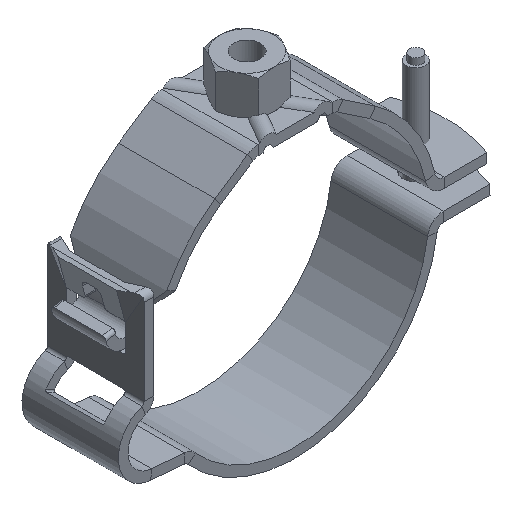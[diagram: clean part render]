
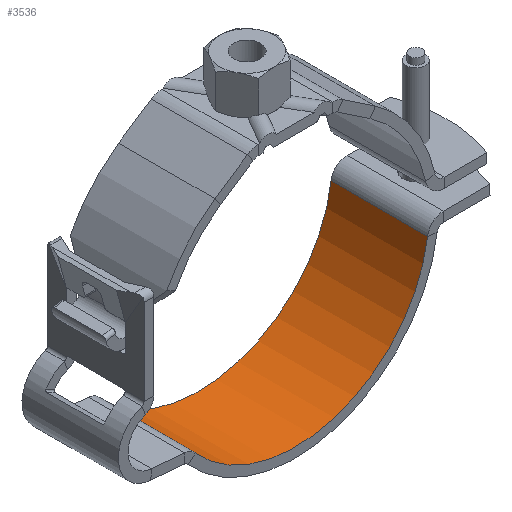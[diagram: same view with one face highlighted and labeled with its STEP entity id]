
A CAD part, isometric view. The second image highlights one B-rep face of the part: STEP entity #3536.
In plain terms, the highlighted cylindrical face has radius 41.5 mm (diameter 83 mm), a partial arc.
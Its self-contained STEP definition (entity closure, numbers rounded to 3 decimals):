
#166=CIRCLE('',#3854,41.5);
#167=CIRCLE('',#3855,41.5);
#267=CYLINDRICAL_SURFACE('',#3853,41.5);
#380=FACE_OUTER_BOUND('',#598,.T.);
#598=EDGE_LOOP('',(#2506,#2507,#2508,#2509));
#875=LINE('',#5640,#1198);
#879=LINE('',#5652,#1202);
#1198=VECTOR('',#4388,30.);
#1202=VECTOR('',#4400,30.);
#1525=VERTEX_POINT('',#5638);
#1526=VERTEX_POINT('',#5639);
#1529=VERTEX_POINT('',#5650);
#1530=VERTEX_POINT('',#5651);
#1894=EDGE_CURVE('',#1525,#1526,#875,.T.);
#1900=EDGE_CURVE('',#1529,#1530,#879,.T.);
#1901=EDGE_CURVE('',#1526,#1530,#166,.T.);
#1902=EDGE_CURVE('',#1525,#1529,#167,.T.);
#2506=ORIENTED_EDGE('',*,*,#1900,.T.);
#2507=ORIENTED_EDGE('',*,*,#1901,.F.);
#2508=ORIENTED_EDGE('',*,*,#1894,.F.);
#2509=ORIENTED_EDGE('',*,*,#1902,.T.);
#3536=ADVANCED_FACE('',(#380),#267,.F.);
#3853=AXIS2_PLACEMENT_3D('',#5649,#4398,#4399);
#3854=AXIS2_PLACEMENT_3D('',#5653,#4401,#4402);
#3855=AXIS2_PLACEMENT_3D('',#5654,#4403,#4404);
#4388=DIRECTION('',(-1.,0.,0.));
#4398=DIRECTION('center_axis',(1.,0.,0.));
#4399=DIRECTION('ref_axis',(0.,1.,0.));
#4400=DIRECTION('',(-1.,0.,0.));
#4401=DIRECTION('center_axis',(1.,0.,0.));
#4402=DIRECTION('ref_axis',(0.,-0.748,-0.664));
#4403=DIRECTION('center_axis',(1.,0.,0.));
#4404=DIRECTION('ref_axis',(0.,-0.748,-0.664));
#5638=CARTESIAN_POINT('',(30.,-31.047,-26.538));
#5639=CARTESIAN_POINT('',(0.,-31.047,-26.538));
#5640=CARTESIAN_POINT('',(30.,-31.047,-26.538));
#5649=CARTESIAN_POINT('Origin',(15.511,0.,1.));
#5650=CARTESIAN_POINT('',(30.,41.153,-4.355));
#5651=CARTESIAN_POINT('',(0.,41.153,-4.355));
#5652=CARTESIAN_POINT('',(30.,41.153,-4.355));
#5653=CARTESIAN_POINT('Origin',(0.,0.,1.));
#5654=CARTESIAN_POINT('Origin',(30.,0.,1.));
